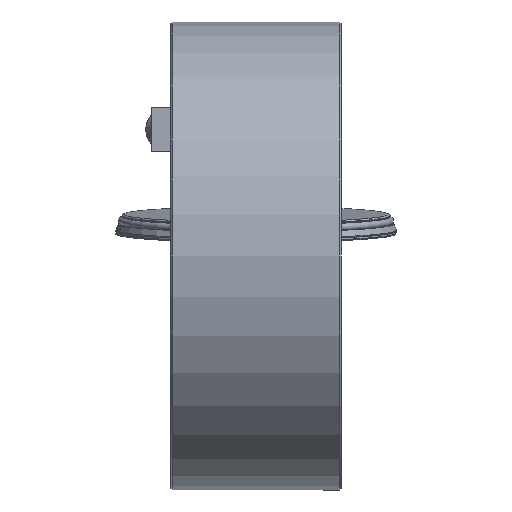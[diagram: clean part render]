
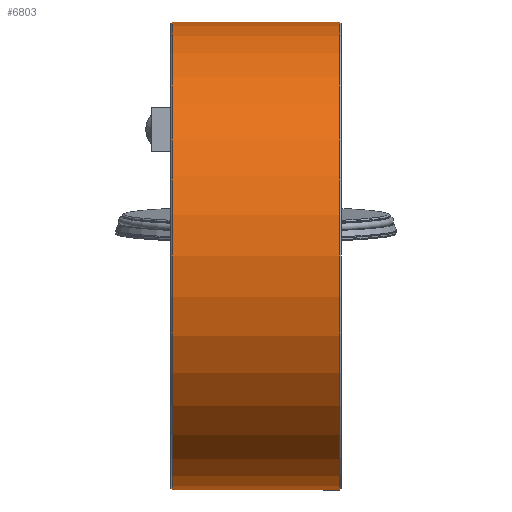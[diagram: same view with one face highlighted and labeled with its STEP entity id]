
A CAD part, left-side view. The second image highlights one B-rep face of the part: STEP entity #6803.
In plain terms, the highlighted cylindrical face has radius 82.5 mm (diameter 165 mm), a full revolution.
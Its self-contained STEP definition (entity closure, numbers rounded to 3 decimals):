
#4642=CYLINDRICAL_SURFACE('',#20303,82.5);
#5244=FACE_BOUND('',#9087,.T.);
#5245=FACE_BOUND('',#9088,.T.);
#5246=FACE_BOUND('',#9089,.T.);
#6022=CIRCLE('',#20294,82.5);
#6024=CIRCLE('',#20297,82.5);
#6026=CIRCLE('',#20300,82.5);
#6027=CIRCLE('',#20302,82.5);
#6803=ADVANCED_FACE('',(#5244,#5245,#5246),#4642,.T.);
#9087=EDGE_LOOP('',(#11439,#11440,#11441,#11442));
#9088=EDGE_LOOP('',(#11443));
#9089=EDGE_LOOP('',(#11444));
#11439=ORIENTED_EDGE('',*,*,#16188,.F.);
#11440=ORIENTED_EDGE('',*,*,#16156,.F.);
#11441=ORIENTED_EDGE('',*,*,#16186,.F.);
#11442=ORIENTED_EDGE('',*,*,#16174,.F.);
#11443=ORIENTED_EDGE('',*,*,#16191,.T.);
#11444=ORIENTED_EDGE('',*,*,#16190,.F.);
#14496=VERTEX_POINT('',#27884);
#14497=VERTEX_POINT('',#27886);
#14514=VERTEX_POINT('',#27926);
#14515=VERTEX_POINT('',#27928);
#14524=VERTEX_POINT('',#27959);
#14525=VERTEX_POINT('',#27962);
#16156=EDGE_CURVE('',#14496,#14497,#17813,.T.);
#16174=EDGE_CURVE('',#14514,#14515,#17829,.T.);
#16186=EDGE_CURVE('',#14515,#14496,#6022,.T.);
#16188=EDGE_CURVE('',#14497,#14514,#6024,.T.);
#16190=EDGE_CURVE('',#14524,#14524,#6026,.T.);
#16191=EDGE_CURVE('',#14525,#14525,#6027,.T.);
#17813=LINE('',#27885,#18919);
#17829=LINE('',#27927,#18935);
#18919=VECTOR('',#23074,1.);
#18935=VECTOR('',#23090,1.);
#20294=AXIS2_PLACEMENT_3D('',#27952,#23105,#23106);
#20297=AXIS2_PLACEMENT_3D('',#27955,#23111,#23112);
#20300=AXIS2_PLACEMENT_3D('',#27958,#23117,#23118);
#20302=AXIS2_PLACEMENT_3D('',#27961,#23121,#23122);
#20303=AXIS2_PLACEMENT_3D('',#27963,#23123,#23124);
#23074=DIRECTION('',(1.,0.,0.));
#23090=DIRECTION('',(-1.,0.,0.));
#23105=DIRECTION('',(1.,0.,0.));
#23106=DIRECTION('',(0.,0.,1.));
#23111=DIRECTION('',(-1.,0.,0.));
#23112=DIRECTION('',(0.,0.,-1.));
#23117=DIRECTION('',(-1.,0.,0.));
#23118=DIRECTION('',(0.,-1.,0.));
#23121=DIRECTION('',(-1.,0.,0.));
#23122=DIRECTION('',(0.,-1.,0.));
#23123=DIRECTION('',(-1.,0.,0.));
#23124=DIRECTION('',(0.,-1.,0.));
#27884=CARTESIAN_POINT('',(11.963,70.,43.661));
#27885=CARTESIAN_POINT('',(0.,70.,43.661));
#27886=CARTESIAN_POINT('',(48.038,70.,43.661));
#27926=CARTESIAN_POINT('',(48.038,70.,-43.661));
#27927=CARTESIAN_POINT('',(0.,70.,-43.661));
#27928=CARTESIAN_POINT('',(11.963,70.,-43.661));
#27952=CARTESIAN_POINT('',(11.963,0.,0.));
#27955=CARTESIAN_POINT('',(48.038,0.,0.));
#27958=CARTESIAN_POINT('',(0.5,0.,0.));
#27959=CARTESIAN_POINT('',(0.5,-82.5,0.));
#27961=CARTESIAN_POINT('',(59.5,0.,0.));
#27962=CARTESIAN_POINT('',(59.5,-82.5,0.));
#27963=CARTESIAN_POINT('',(0.,0.,0.));
